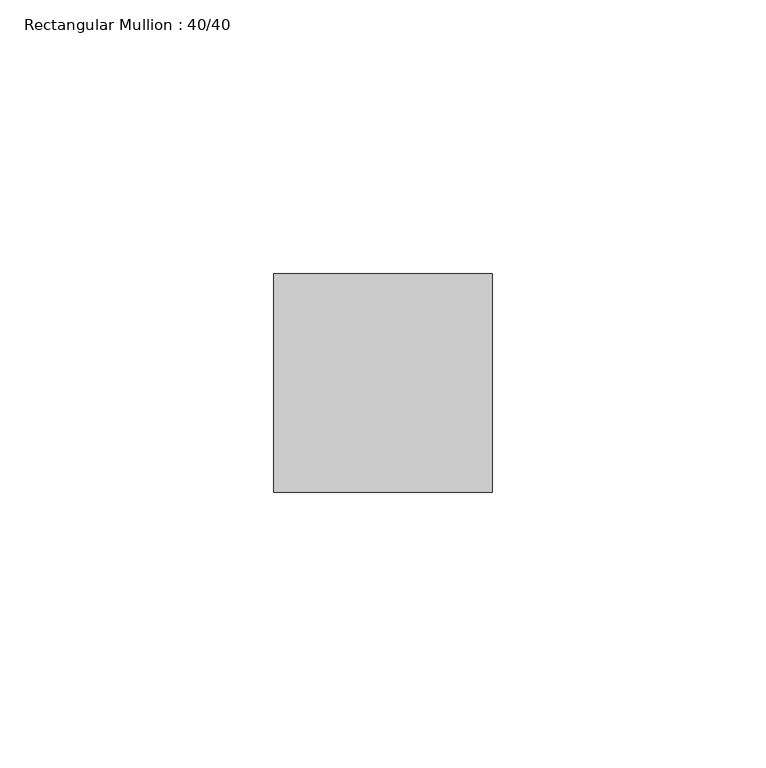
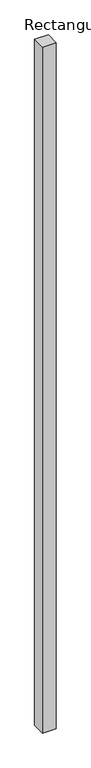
"""IFC4 building model written with IfcOpenShell, lengths in millimetres: member geometry, Rectangular Mullion : 40/40."""

from ifc_helpers import new_model, si_unit, frame, origin, place, context, project, spatial, polyline, outline, extrude, source, transform, mapped, element, save


def rectangular_mullion_40_40_14cc0a15(model_context):
    return source(origin(), model_context, "Body", "SweptSolid", [
        extrude(outline(polyline([(0.0, 20.0), (0.0, -20.0), (-40.0, -20.0), (-40.0, 20.0), (0.0, 20.0)])), frame((0.0, 0.0, -2130.1890334), z_axis=(0.0, 0.0, 1.0), x_axis=(1.0, 0.0, 0.0)), (0.0, 0.0, 1.0), 2130.1890334),
    ])


if __name__ == "__main__":
    model = new_model("IFC4")
    model_context = context("Model", 3, world=origin())
    ifc_project = project(units=[si_unit("LENGTHUNIT", "METRE", prefix="MILLI")], contexts=[model_context])
    site = spatial("IfcSite", under=ifc_project)
    building = spatial("IfcBuilding", under=site)
    placement = place(None, origin())
    rectangular_mullion_40_40_shape = rectangular_mullion_40_40_14cc0a15(model_context)
    element("IfcMember", 1, ObjectType="Rectangular Mullion : 40/40", at=placement, inside=building, context=model_context, shape_type="MappedRepresentation", body=[
        mapped(rectangular_mullion_40_40_shape, transform((0.0, 0.0, 0.0), x_axis=(1.0, 0.0, 0.0), y_axis=(0.0, 1.0, 0.0), z_axis=(0.0, 0.0, 1.0))),
    ])
    save(model, "model.ifc")
